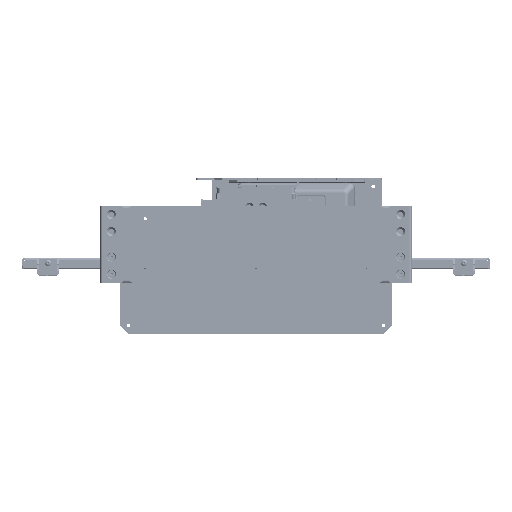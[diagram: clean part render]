
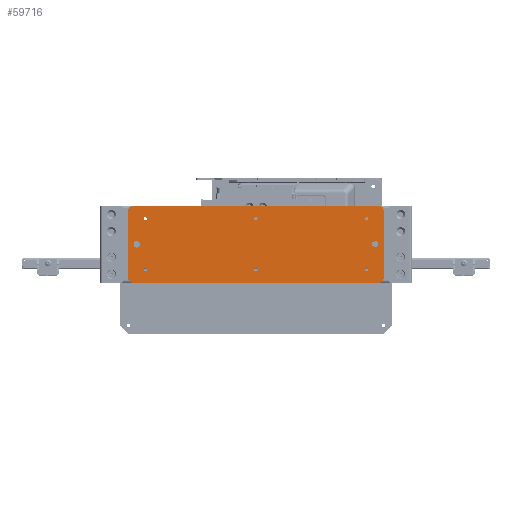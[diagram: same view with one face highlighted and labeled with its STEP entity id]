
A CAD part, top view. The second image highlights one B-rep face of the part: STEP entity #59716.
In plain terms, the highlighted planar face has unit normal (0, 0, 1) as drawn and (0, 0, -1) by its records, which use the part's own axes.
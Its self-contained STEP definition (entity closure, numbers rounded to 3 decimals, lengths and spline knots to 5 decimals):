
#5668=LINE('',#96410,#11063);
#5672=LINE('',#96419,#11067);
#5676=LINE('',#96428,#11071);
#5682=LINE('',#96452,#11077);
#11063=VECTOR('',#78339,1.);
#11067=VECTOR('',#78345,1.);
#11071=VECTOR('',#78351,1.);
#11077=VECTOR('',#78371,1.);
#21250=ORIENTED_EDGE('',*,*,#34520,.T.);
#21251=ORIENTED_EDGE('',*,*,#34521,.T.);
#21252=ORIENTED_EDGE('',*,*,#34522,.T.);
#21253=ORIENTED_EDGE('',*,*,#34523,.T.);
#21254=ORIENTED_EDGE('',*,*,#34524,.T.);
#21255=ORIENTED_EDGE('',*,*,#34525,.T.);
#21256=ORIENTED_EDGE('',*,*,#34503,.T.);
#21257=ORIENTED_EDGE('',*,*,#34505,.T.);
#21258=ORIENTED_EDGE('',*,*,#34508,.F.);
#21259=ORIENTED_EDGE('',*,*,#34526,.T.);
#21260=ORIENTED_EDGE('',*,*,#34498,.F.);
#21261=ORIENTED_EDGE('',*,*,#34527,.T.);
#21262=ORIENTED_EDGE('',*,*,#34494,.T.);
#21263=ORIENTED_EDGE('',*,*,#34528,.T.);
#21264=ORIENTED_EDGE('',*,*,#34490,.T.);
#21265=ORIENTED_EDGE('',*,*,#34529,.T.);
#34490=EDGE_CURVE('',#41769,#41770,#5668,.T.);
#34494=EDGE_CURVE('',#41773,#41774,#5672,.T.);
#34498=EDGE_CURVE('',#41777,#41778,#5676,.T.);
#34503=EDGE_CURVE('',#41782,#41782,#46069,.F.);
#34505=EDGE_CURVE('',#41784,#41784,#46071,.F.);
#34508=EDGE_CURVE('',#41787,#41788,#5682,.T.);
#34520=EDGE_CURVE('',#41795,#41795,#46082,.F.);
#34521=EDGE_CURVE('',#41796,#41796,#46083,.F.);
#34522=EDGE_CURVE('',#41797,#41797,#46084,.F.);
#34523=EDGE_CURVE('',#41798,#41798,#46085,.F.);
#34524=EDGE_CURVE('',#41799,#41799,#46086,.F.);
#34525=EDGE_CURVE('',#41800,#41800,#46087,.F.);
#34526=EDGE_CURVE('',#41787,#41778,#46088,.T.);
#34527=EDGE_CURVE('',#41777,#41773,#46089,.T.);
#34528=EDGE_CURVE('',#41774,#41769,#46090,.T.);
#34529=EDGE_CURVE('',#41770,#41788,#46091,.T.);
#41769=VERTEX_POINT('',#96411);
#41770=VERTEX_POINT('',#96412);
#41773=VERTEX_POINT('',#96420);
#41774=VERTEX_POINT('',#96421);
#41777=VERTEX_POINT('',#96429);
#41778=VERTEX_POINT('',#96430);
#41782=VERTEX_POINT('',#96440);
#41784=VERTEX_POINT('',#96445);
#41787=VERTEX_POINT('',#96451);
#41788=VERTEX_POINT('',#96453);
#41795=VERTEX_POINT('',#96474);
#41796=VERTEX_POINT('',#96476);
#41797=VERTEX_POINT('',#96478);
#41798=VERTEX_POINT('',#96480);
#41799=VERTEX_POINT('',#96482);
#41800=VERTEX_POINT('',#96484);
#46069=CIRCLE('',#67376,0.00396);
#46071=CIRCLE('',#67379,0.00396);
#46082=CIRCLE('',#67393,0.00246);
#46083=CIRCLE('',#67394,0.00246);
#46084=CIRCLE('',#67395,0.00246);
#46085=CIRCLE('',#67396,0.00246);
#46086=CIRCLE('',#67397,0.00246);
#46087=CIRCLE('',#67398,0.00246);
#46088=CIRCLE('',#67399,0.00635);
#46089=CIRCLE('',#67400,0.00635);
#46090=CIRCLE('',#67401,0.00635);
#46091=CIRCLE('',#67402,0.00635);
#49466=EDGE_LOOP('',(#21250));
#49467=EDGE_LOOP('',(#21251));
#49468=EDGE_LOOP('',(#21252));
#49469=EDGE_LOOP('',(#21253));
#49470=EDGE_LOOP('',(#21254));
#49471=EDGE_LOOP('',(#21255));
#49472=EDGE_LOOP('',(#21256));
#49473=EDGE_LOOP('',(#21257));
#49474=EDGE_LOOP('',(#21258,#21259,#21260,#21261,#21262,#21263,#21264,#21265));
#53944=FACE_BOUND('',#49466,.T.);
#53945=FACE_BOUND('',#49467,.T.);
#53946=FACE_BOUND('',#49468,.T.);
#53947=FACE_BOUND('',#49469,.T.);
#53948=FACE_BOUND('',#49470,.T.);
#53949=FACE_BOUND('',#49471,.T.);
#53950=FACE_BOUND('',#49472,.T.);
#53951=FACE_BOUND('',#49473,.T.);
#53952=FACE_BOUND('',#49474,.T.);
#57201=PLANE('',#67392);
#59716=ADVANCED_FACE('',(#53944,#53945,#53946,#53947,#53948,#53949,#53950,
#53951,#53952),#57201,.T.);
#67376=AXIS2_PLACEMENT_3D('',#96439,#78359,#78360);
#67379=AXIS2_PLACEMENT_3D('',#96444,#78365,#78366);
#67392=AXIS2_PLACEMENT_3D('',#96472,#78395,#78396);
#67393=AXIS2_PLACEMENT_3D('',#96473,#78397,#78398);
#67394=AXIS2_PLACEMENT_3D('',#96475,#78399,#78400);
#67395=AXIS2_PLACEMENT_3D('',#96477,#78401,#78402);
#67396=AXIS2_PLACEMENT_3D('',#96479,#78403,#78404);
#67397=AXIS2_PLACEMENT_3D('',#96481,#78405,#78406);
#67398=AXIS2_PLACEMENT_3D('',#96483,#78407,#78408);
#67399=AXIS2_PLACEMENT_3D('',#96485,#78409,#78410);
#67400=AXIS2_PLACEMENT_3D('',#96486,#78411,#78412);
#67401=AXIS2_PLACEMENT_3D('',#96487,#78413,#78414);
#67402=AXIS2_PLACEMENT_3D('',#96488,#78415,#78416);
#78339=DIRECTION('',(-1.,0.,0.));
#78345=DIRECTION('',(0.,-1.,0.));
#78351=DIRECTION('',(-1.,0.,0.));
#78359=DIRECTION('',(0.,0.,-1.));
#78360=DIRECTION('',(-1.,0.,0.));
#78365=DIRECTION('',(0.,0.,-1.));
#78366=DIRECTION('',(-1.,0.,0.));
#78371=DIRECTION('',(0.,-1.,0.));
#78395=DIRECTION('',(0.,0.,-1.));
#78396=DIRECTION('',(1.,0.,0.));
#78397=DIRECTION('',(0.,0.,-1.));
#78398=DIRECTION('',(-1.,0.,0.));
#78399=DIRECTION('',(0.,0.,-1.));
#78400=DIRECTION('',(-1.,0.,0.));
#78401=DIRECTION('',(0.,0.,-1.));
#78402=DIRECTION('',(-1.,0.,0.));
#78403=DIRECTION('',(0.,0.,-1.));
#78404=DIRECTION('',(-1.,0.,0.));
#78405=DIRECTION('',(0.,0.,-1.));
#78406=DIRECTION('',(-1.,0.,0.));
#78407=DIRECTION('',(0.,0.,-1.));
#78408=DIRECTION('',(-1.,0.,0.));
#78409=DIRECTION('',(0.,0.,-1.));
#78410=DIRECTION('',(-1.,0.,0.));
#78411=DIRECTION('',(0.,0.,-1.));
#78412=DIRECTION('',(-1.,0.,0.));
#78413=DIRECTION('',(0.,0.,-1.));
#78414=DIRECTION('',(-1.,0.,0.));
#78415=DIRECTION('',(0.,0.,-1.));
#78416=DIRECTION('',(-1.,0.,0.));
#96410=CARTESIAN_POINT('',(0.,-0.05715,-0.00229));
#96411=CARTESIAN_POINT('',(0.18415,-0.05715,-0.00229));
#96412=CARTESIAN_POINT('',(-0.18415,-0.05715,-0.00229));
#96419=CARTESIAN_POINT('',(0.1905,0.,-0.00229));
#96420=CARTESIAN_POINT('',(0.1905,0.0508,-0.00229));
#96421=CARTESIAN_POINT('',(0.1905,-0.0508,-0.00229));
#96428=CARTESIAN_POINT('',(0.,0.05715,-0.00229));
#96429=CARTESIAN_POINT('',(0.18415,0.05715,-0.00229));
#96430=CARTESIAN_POINT('',(-0.18415,0.05715,-0.00229));
#96439=CARTESIAN_POINT('',(-0.1778,0.,-0.00229));
#96440=CARTESIAN_POINT('',(-0.18176,0.,-0.00229));
#96444=CARTESIAN_POINT('',(0.1778,0.,-0.00229));
#96445=CARTESIAN_POINT('',(0.17384,0.,-0.00229));
#96451=CARTESIAN_POINT('',(-0.1905,0.0508,-0.00229));
#96452=CARTESIAN_POINT('',(-0.1905,0.,-0.00229));
#96453=CARTESIAN_POINT('',(-0.1905,-0.0508,-0.00229));
#96472=CARTESIAN_POINT('',(0.,0.,-0.00229));
#96473=CARTESIAN_POINT('',(-0.1651,0.0381,-0.00229));
#96474=CARTESIAN_POINT('',(-0.16756,0.0381,-0.00229));
#96475=CARTESIAN_POINT('',(0.,0.0381,-0.00229));
#96476=CARTESIAN_POINT('',(-0.00246,0.0381,-0.00229));
#96477=CARTESIAN_POINT('',(0.1651,0.0381,-0.00229));
#96478=CARTESIAN_POINT('',(0.16264,0.0381,-0.00229));
#96479=CARTESIAN_POINT('',(0.1651,-0.0381,-0.00229));
#96480=CARTESIAN_POINT('',(0.16264,-0.0381,-0.00229));
#96481=CARTESIAN_POINT('',(0.,-0.0381,-0.00229));
#96482=CARTESIAN_POINT('',(-0.00246,-0.0381,-0.00229));
#96483=CARTESIAN_POINT('',(-0.1651,-0.0381,-0.00229));
#96484=CARTESIAN_POINT('',(-0.16756,-0.0381,-0.00229));
#96485=CARTESIAN_POINT('',(-0.18415,0.0508,-0.00229));
#96486=CARTESIAN_POINT('',(0.18415,0.0508,-0.00229));
#96487=CARTESIAN_POINT('',(0.18415,-0.0508,-0.00229));
#96488=CARTESIAN_POINT('',(-0.18415,-0.0508,-0.00229));
